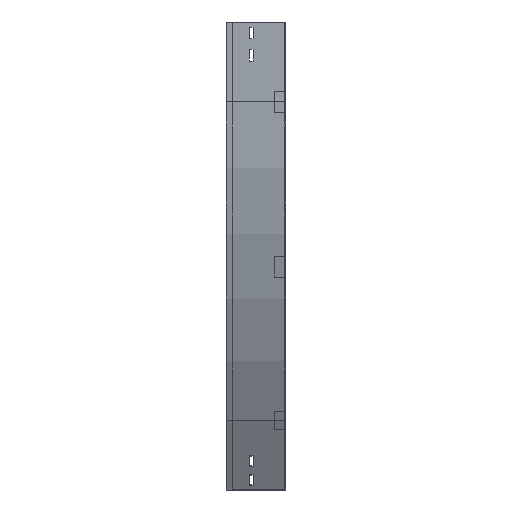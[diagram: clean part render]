
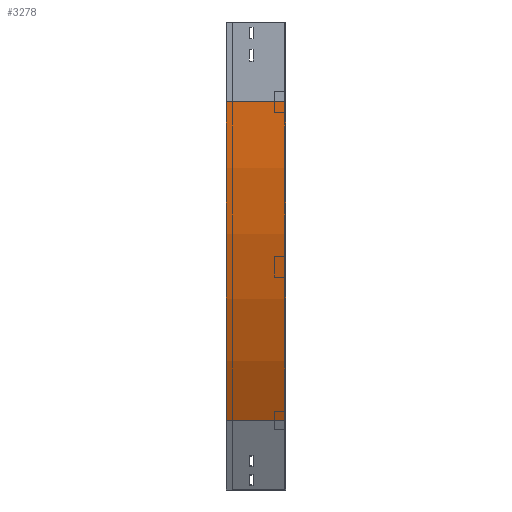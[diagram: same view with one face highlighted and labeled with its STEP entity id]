
A CAD part, left-side view. The second image highlights one B-rep face of the part: STEP entity #3278.
In plain terms, the highlighted cylindrical face has radius 1200 mm (diameter 2400 mm), a partial arc.
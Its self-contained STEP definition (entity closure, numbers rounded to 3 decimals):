
#122 = ORIENTED_EDGE ( 'NONE', *, *, #3674, .T. ) ;
#238 = CARTESIAN_POINT ( 'NONE',  ( 160.77, 112.5, -750. ) ) ;
#286 = FACE_OUTER_BOUND ( 'NONE', #1267, .T. ) ;
#303 = VERTEX_POINT ( 'NONE', #2177 ) ;
#358 = DIRECTION ( 'NONE',  ( 0., -1., 0. ) ) ;
#372 = DIRECTION ( 'NONE',  ( -1., 0., 0. ) ) ;
#531 = CARTESIAN_POINT ( 'NONE',  ( 0., 0., -150. ) ) ;
#592 = VERTEX_POINT ( 'NONE', #2355 ) ;
#647 = CARTESIAN_POINT ( 'NONE',  ( 1200., 0., -150. ) ) ;
#680 = CARTESIAN_POINT ( 'NONE',  ( 1200., 0., -150. ) ) ;
#897 = ORIENTED_EDGE ( 'NONE', *, *, #2329, .F. ) ;
#1134 = AXIS2_PLACEMENT_3D ( 'NONE', #3699, #1250, #372 ) ;
#1165 = LINE ( 'NONE', #2000, #1644 ) ;
#1250 = DIRECTION ( 'NONE',  ( 0., -1., 0. ) ) ;
#1267 = EDGE_LOOP ( 'NONE', ( #897, #1904, #2765, #122 ) ) ;
#1644 = VECTOR ( 'NONE', #2352, 1000. ) ;
#1649 = AXIS2_PLACEMENT_3D ( 'NONE', #680, #1872, #3055 ) ;
#1653 = VECTOR ( 'NONE', #1782, 1000. ) ;
#1782 = DIRECTION ( 'NONE',  ( 0., -1., 0. ) ) ;
#1872 = DIRECTION ( 'NONE',  ( 0., -1., 0. ) ) ;
#1904 = ORIENTED_EDGE ( 'NONE', *, *, #2846, .F. ) ;
#2000 = CARTESIAN_POINT ( 'NONE',  ( 0., 0., -150. ) ) ;
#2136 = CIRCLE ( 'NONE', #1134, 1200. ) ;
#2177 = CARTESIAN_POINT ( 'NONE',  ( 0., 112.5, -150. ) ) ;
#2276 = EDGE_CURVE ( 'NONE', #303, #3584, #2136, .T. ) ;
#2328 = CIRCLE ( 'NONE', #1649, 1200. ) ;
#2329 = EDGE_CURVE ( 'NONE', #3596, #592, #2328, .T. ) ;
#2345 = LINE ( 'NONE', #2414, #1653 ) ;
#2352 = DIRECTION ( 'NONE',  ( 0., -1., 0. ) ) ;
#2355 = CARTESIAN_POINT ( 'NONE',  ( 160.77, 0., -750. ) ) ;
#2414 = CARTESIAN_POINT ( 'NONE',  ( 160.77, 0., -750. ) ) ;
#2765 = ORIENTED_EDGE ( 'NONE', *, *, #2276, .T. ) ;
#2846 = EDGE_CURVE ( 'NONE', #303, #3596, #1165, .T. ) ;
#3000 = DIRECTION ( 'NONE',  ( 0., 0., -1. ) ) ;
#3055 = DIRECTION ( 'NONE',  ( -1., 0., 0. ) ) ;
#3278 = ADVANCED_FACE ( 'NONE', ( #286 ), #3320, .T. ) ;
#3320 = CYLINDRICAL_SURFACE ( 'NONE', #3747, 1200. ) ;
#3584 = VERTEX_POINT ( 'NONE', #238 ) ;
#3596 = VERTEX_POINT ( 'NONE', #531 ) ;
#3674 = EDGE_CURVE ( 'NONE', #3584, #592, #2345, .T. ) ;
#3699 = CARTESIAN_POINT ( 'NONE',  ( 1200., 112.5, -150. ) ) ;
#3747 = AXIS2_PLACEMENT_3D ( 'NONE', #647, #358, #3000 ) ;
